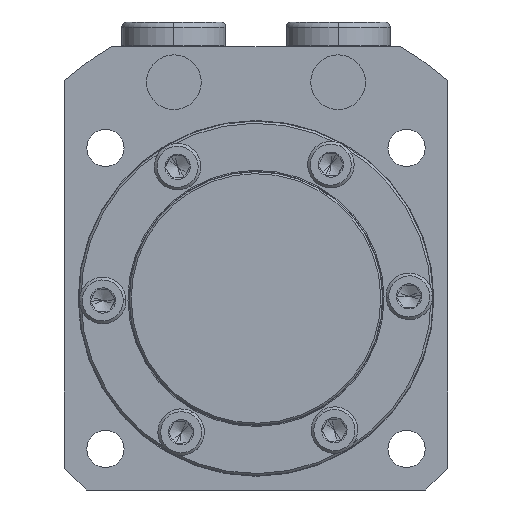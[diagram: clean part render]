
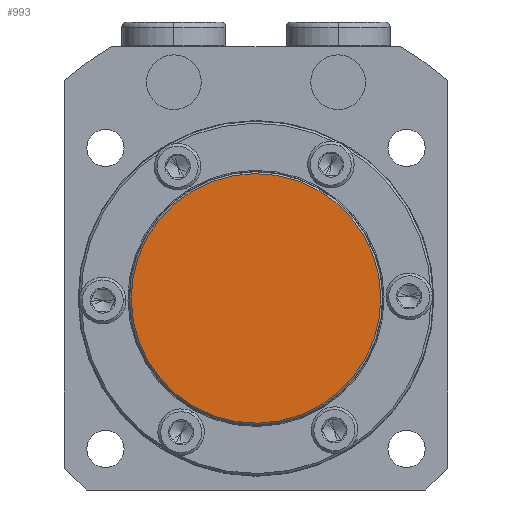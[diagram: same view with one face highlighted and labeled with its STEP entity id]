
A CAD part, front view. The second image highlights one B-rep face of the part: STEP entity #993.
In plain terms, the highlighted planar face has unit normal (0, -1, 0).
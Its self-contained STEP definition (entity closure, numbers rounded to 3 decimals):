
#684 = CIRCLE ( 'NONE', #687, 22.8 ) ;
#687 = AXIS2_PLACEMENT_3D ( 'NONE', #6879, #6880, #6881 ) ;
#993 = ADVANCED_FACE ( 'NONE', ( #1786 ), #1787, .T. ) ;
#1762 = CARTESIAN_POINT ( 'NONE',  ( 0., -10.5, 0. ) ) ;
#1786 = FACE_OUTER_BOUND ( 'NONE', #6276, .T. ) ;
#1787 = PLANE ( 'NONE',  #4980 ) ;
#1790 = DIRECTION ( 'NONE',  ( 0., -1., 0. ) ) ;
#1791 = DIRECTION ( 'NONE',  ( 0., 0., -1. ) ) ;
#2989 = ORIENTED_EDGE ( 'NONE', *, *, #4212, .T. ) ;
#2990 = ORIENTED_EDGE ( 'NONE', *, *, #4153, .T. ) ;
#4153 = EDGE_CURVE ( 'NONE', #5588, #5591, #5220, .T. ) ;
#4212 = EDGE_CURVE ( 'NONE', #5591, #5588, #684, .T. ) ;
#4980 = AXIS2_PLACEMENT_3D ( 'NONE', #1762, #1790, #1791 ) ;
#5220 = CIRCLE ( 'NONE', #5225, 22.8 ) ;
#5225 = AXIS2_PLACEMENT_3D ( 'NONE', #6702, #6703, #6704 ) ;
#5588 = VERTEX_POINT ( 'NONE', #7596 ) ;
#5591 = VERTEX_POINT ( 'NONE', #7599 ) ;
#6276 = EDGE_LOOP ( 'NONE', ( #2989, #2990 ) ) ;
#6702 = CARTESIAN_POINT ( 'NONE',  ( 0., -10.5, 0. ) ) ;
#6703 = DIRECTION ( 'NONE',  ( 0., -1., 0. ) ) ;
#6704 = DIRECTION ( 'NONE',  ( 0., 0., -1. ) ) ;
#6879 = CARTESIAN_POINT ( 'NONE',  ( 0., -10.5, 0. ) ) ;
#6880 = DIRECTION ( 'NONE',  ( 0., -1., 0. ) ) ;
#6881 = DIRECTION ( 'NONE',  ( 0., 0., -1. ) ) ;
#7596 = CARTESIAN_POINT ( 'NONE',  ( 0., -10.5, -22.8 ) ) ;
#7599 = CARTESIAN_POINT ( 'NONE',  ( 0., -10.5, 22.8 ) ) ;
